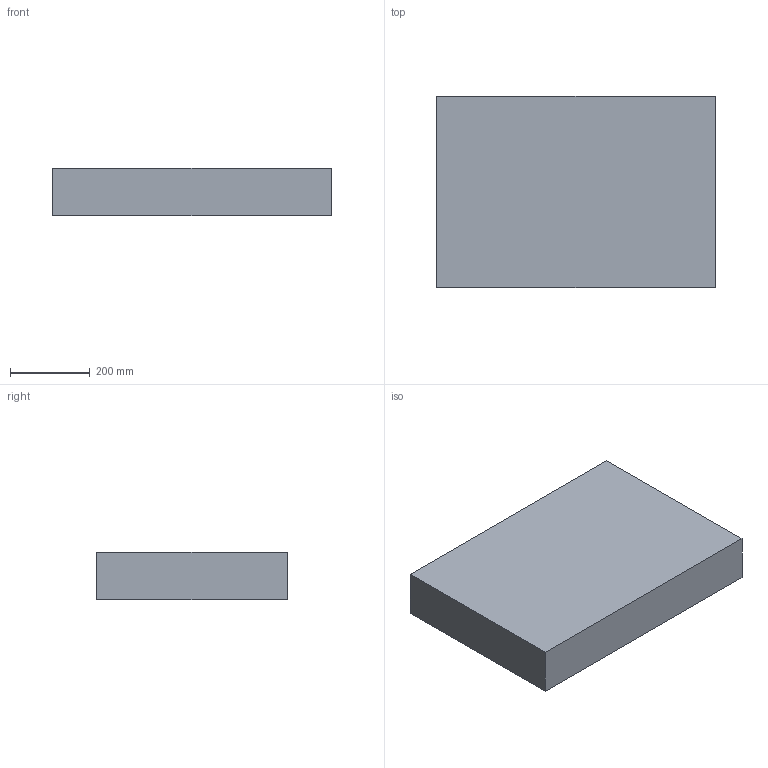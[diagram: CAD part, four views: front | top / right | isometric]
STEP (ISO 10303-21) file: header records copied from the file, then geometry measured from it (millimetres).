
FILE_DESCRIPTION(/* description */ (''),/* implementation_level */ '2;1');
FILE_NAME(/* name */ 'EG Plan 600.stp',/* time_stamp */ '2024-09-27T11:30:47+02:00',/* author */ ('d.streicher'),/* organization */ (''),/* preprocessor_version */ 'ST-DEVELOPER v20',/* originating_system */ 'Autodesk Inventor 2025',/* authorisation */ '');
FILE_SCHEMA (('AUTOMOTIVE_DESIGN { 1 0 10303 214 3 1 1 }'));
Length unit declared in the file: millimetre
Products named in the file (1): EG Plan 600
Bounding box: 700 x 480 x 120 mm (x, y, z)
Volume: 7142830.5 mm3; surface area: 1448405.7 mm2
Topology: 1 solids, 1 shells, 26 faces, 66 edges, 44 vertices
Faces by surface type: plane 16, cylinder 10
Full cylindrical faces by diameter (mm): 3 x6
Entity records: 890 total; most frequent: DIRECTION 140, CARTESIAN_POINT 137, ORIENTED_EDGE 132, EDGE_CURVE 66, AXIS2_PLACEMENT_3D 47, LINE 46, VECTOR 46, VERTEX_POINT 44
